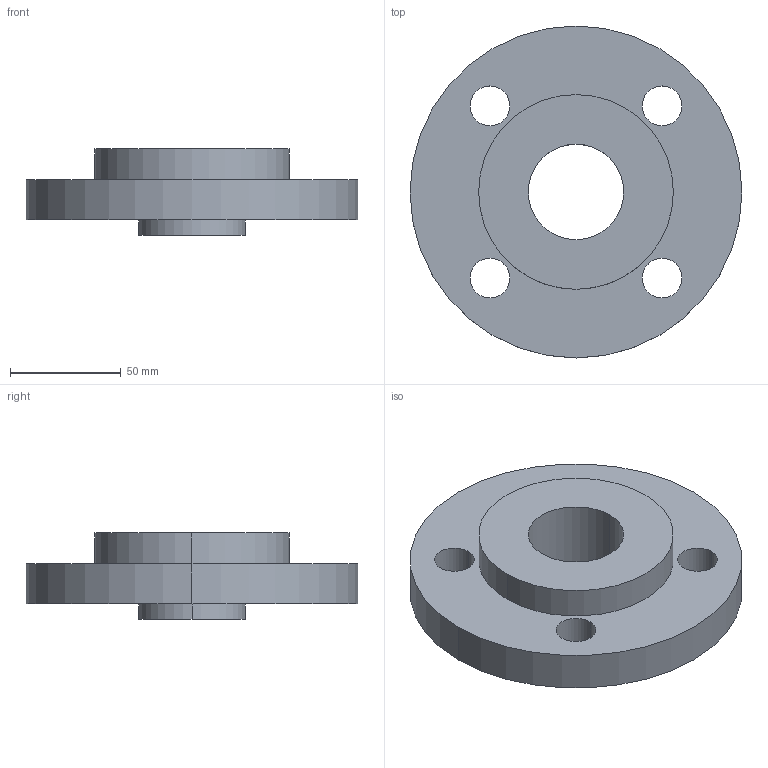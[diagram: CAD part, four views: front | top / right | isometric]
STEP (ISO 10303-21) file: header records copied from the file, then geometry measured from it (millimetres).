
FILE_DESCRIPTION (( 'STEP AP214' ), '1' );
FILE_NAME ('PN40 DN40 Type 04 in 34 - (Type A Face).STEP', '2018-12-30T02:30:29', ( '' ), ( '' ), 'SwSTEP 2.0', 'SolidWorks 2019', '' );
FILE_SCHEMA (( 'AUTOMOTIVE_DESIGN' ));
Length unit declared in the file: millimetre
Products named in the file (1): PN40 DN40 Type 04 in 34 - (Type A Face)
Bounding box: 150 x 150 x 39 mm (x, y, z)
Volume: 313037.4 mm3; surface area: 63554.9 mm2
Topology: 2 solids, 2 shells, 29 faces, 66 edges, 42 vertices
Faces by surface type: cylinder 18, cone 6, plane 5
Entity records: 901 total; most frequent: DIRECTION 168, CARTESIAN_POINT 138, ORIENTED_EDGE 132, AXIS2_PLACEMENT_3D 72, EDGE_CURVE 66, CIRCLE 42, VERTEX_POINT 42, EDGE_LOOP 42
